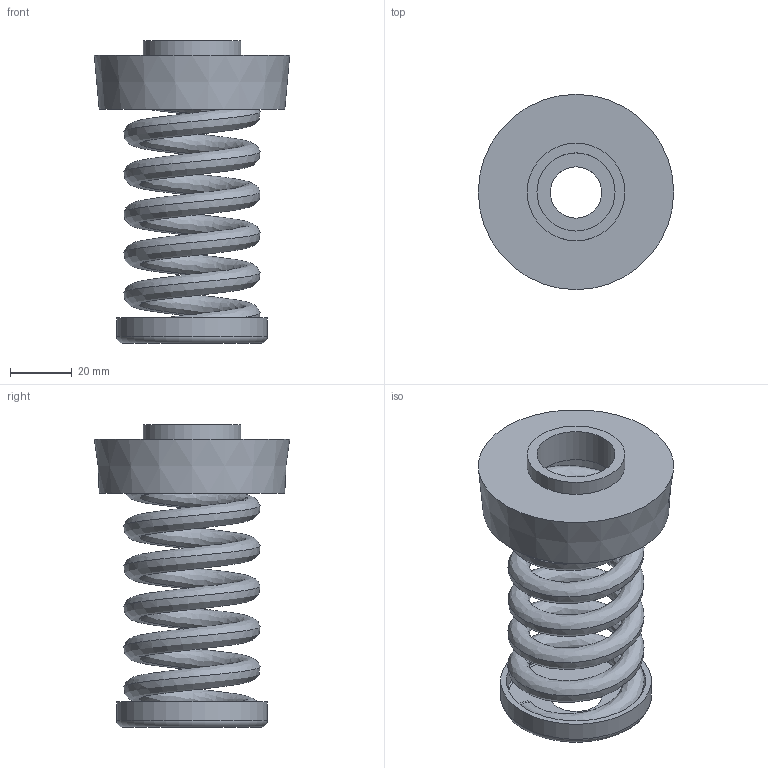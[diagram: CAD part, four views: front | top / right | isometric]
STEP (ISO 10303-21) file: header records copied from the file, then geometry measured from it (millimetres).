
FILE_DESCRIPTION(/* description */ (''),/* implementation_level */ '2;1');
FILE_NAME(/* name */ '\\Mleuckthor2\cad-proe_solids\WEBSITE FILES 05.22.13\STEP\IM\IM-A-625.stp',/* time_stamp */ '2016-03-05T13:39:03-05:00',/* author */ ('rramoutar'),/* organization */ ('Mason Industries Inc.'),/* preprocessor_version */ 'ST-DEVELOPER v15.6',/* originating_system */ 'Autodesk Inventor 2015',/* authorisation */ '');
FILE_SCHEMA (('CONFIG_CONTROL_DESIGN'));
Length unit declared in the file: inch
Products named in the file (1): IM-A-625 HANGER
Bounding box: 63.5 x 63.5 x 98.36 mm (x, y, z)
Volume: 50828.5 mm3; surface area: 52368.9 mm2
Topology: 4 solids, 4 shells, 54 faces, 121 edges, 80 vertices
Faces by surface type: bspline 22, plane 17, cylinder 12, torus 2, cone 1
Full cylindrical faces by diameter (mm): 16.669 x1, 25.4 x1, 31.75 x3, 43.656 x1, 45.263 x1, 49.058 x1, 53.975 x2
Entity records: 11631 total; most frequent: CARTESIAN_POINT 10488, ORIENTED_EDGE 216, DIRECTION 156, EDGE_CURVE 108, EDGE_LOOP 80, VERTEX_POINT 80, AXIS2_PLACEMENT_3D 63, STYLED_ITEM 58
